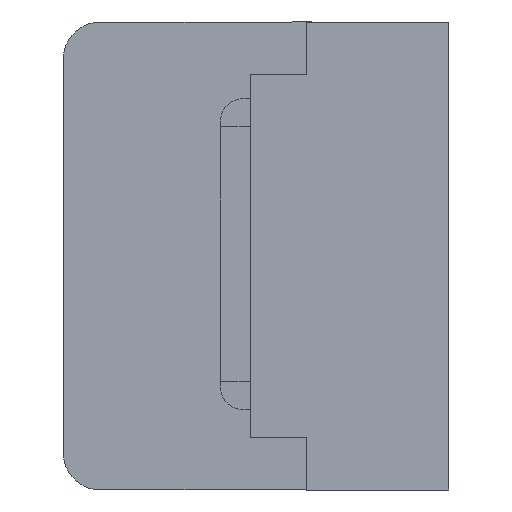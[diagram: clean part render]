
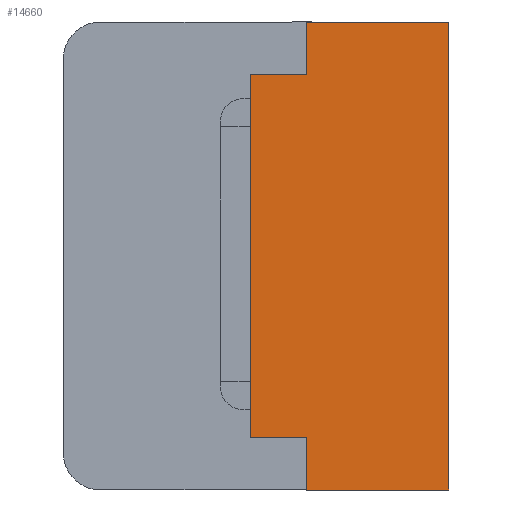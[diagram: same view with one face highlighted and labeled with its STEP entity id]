
A CAD part, left-side view. The second image highlights one B-rep face of the part: STEP entity #14660.
In plain terms, the highlighted planar face has unit normal (-1, 0, 0).
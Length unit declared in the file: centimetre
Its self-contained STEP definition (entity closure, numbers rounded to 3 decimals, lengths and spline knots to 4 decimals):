
#968=PLANE('',#24045);
#1688=VECTOR('',#15899,1.);
#1757=VECTOR('',#16003,1.);
#1759=VECTOR('',#16008,1.);
#1772=VECTOR('',#16022,1.);
#2285=VECTOR('',#17192,1.);
#2286=VECTOR('',#17193,1.);
#2287=VECTOR('',#17194,1.);
#2288=VECTOR('',#17195,1.);
#3264=LINE('',#19857,#1688);
#3333=LINE('',#20010,#1757);
#3335=LINE('',#20016,#1759);
#3348=LINE('',#20041,#1772);
#3861=LINE('',#21818,#2285);
#3862=LINE('',#21820,#2286);
#3863=LINE('',#21821,#2287);
#3864=LINE('',#21823,#2288);
#4776=VERTEX_POINT('',#19856);
#4777=VERTEX_POINT('',#19858);
#4818=VERTEX_POINT('',#19974);
#4835=VERTEX_POINT('',#20009);
#4837=VERTEX_POINT('',#20015);
#4849=VERTEX_POINT('',#20042);
#5344=VERTEX_POINT('',#21819);
#5345=VERTEX_POINT('',#21822);
#6671=EDGE_CURVE('',#4776,#4777,#3264,.T.);
#6747=EDGE_CURVE('',#4835,#4818,#3333,.T.);
#6750=EDGE_CURVE('',#4818,#4837,#3335,.T.);
#6763=EDGE_CURVE('',#4837,#4849,#3348,.T.);
#7530=EDGE_CURVE('',#5344,#4835,#3861,.T.);
#7531=EDGE_CURVE('',#4777,#5344,#3862,.T.);
#7532=EDGE_CURVE('',#5345,#4776,#3863,.T.);
#7533=EDGE_CURVE('',#4849,#5345,#3864,.T.);
#11299=ORIENTED_EDGE('',*,*,#7530,.F.);
#11300=ORIENTED_EDGE('',*,*,#7531,.F.);
#11301=ORIENTED_EDGE('',*,*,#6671,.F.);
#11302=ORIENTED_EDGE('',*,*,#7532,.F.);
#11303=ORIENTED_EDGE('',*,*,#7533,.F.);
#11304=ORIENTED_EDGE('',*,*,#6763,.F.);
#11305=ORIENTED_EDGE('',*,*,#6750,.F.);
#11306=ORIENTED_EDGE('',*,*,#6747,.F.);
#12969=EDGE_LOOP('',(#11299,#11300,#11301,#11302,#11303,#11304,#11305,#11306));
#13843=FACE_BOUND('',#12969,.T.);
#14660=ADVANCED_FACE('',(#13843),#968,.F.);
#15899=DIRECTION('',(0.,0.,1.));
#16003=DIRECTION('',(0.,-1.,0.));
#16008=DIRECTION('',(0.,0.,-1.));
#16022=DIRECTION('',(0.,1.,0.));
#17191=DIRECTION('',(1.,0.,0.));
#17192=DIRECTION('',(0.,0.,1.));
#17193=DIRECTION('',(0.,-1.,0.));
#17194=DIRECTION('',(0.,1.,0.));
#17195=DIRECTION('',(0.,0.,1.));
#19856=CARTESIAN_POINT('',(-1.382,0.53,-0.485));
#19857=CARTESIAN_POINT('',(-1.382,0.53,-0.485));
#19858=CARTESIAN_POINT('',(-1.382,0.53,0.485));
#19974=CARTESIAN_POINT('',(-1.382,0.,0.625));
#20009=CARTESIAN_POINT('',(-1.382,0.38,0.625));
#20010=CARTESIAN_POINT('',(-1.382,0.38,0.625));
#20015=CARTESIAN_POINT('',(-1.382,0.,-0.625));
#20016=CARTESIAN_POINT('',(-1.382,0.,0.625));
#20041=CARTESIAN_POINT('',(-1.382,0.,-0.625));
#20042=CARTESIAN_POINT('',(-1.382,0.38,-0.625));
#21817=CARTESIAN_POINT('',(-1.382,0.2532,0.));
#21818=CARTESIAN_POINT('',(-1.382,0.38,0.485));
#21819=CARTESIAN_POINT('',(-1.382,0.38,0.485));
#21820=CARTESIAN_POINT('',(-1.382,0.53,0.485));
#21821=CARTESIAN_POINT('',(-1.382,0.38,-0.485));
#21822=CARTESIAN_POINT('',(-1.382,0.38,-0.485));
#21823=CARTESIAN_POINT('',(-1.382,0.38,-0.625));
#24045=AXIS2_PLACEMENT_3D('',#21817,#17191,$);
